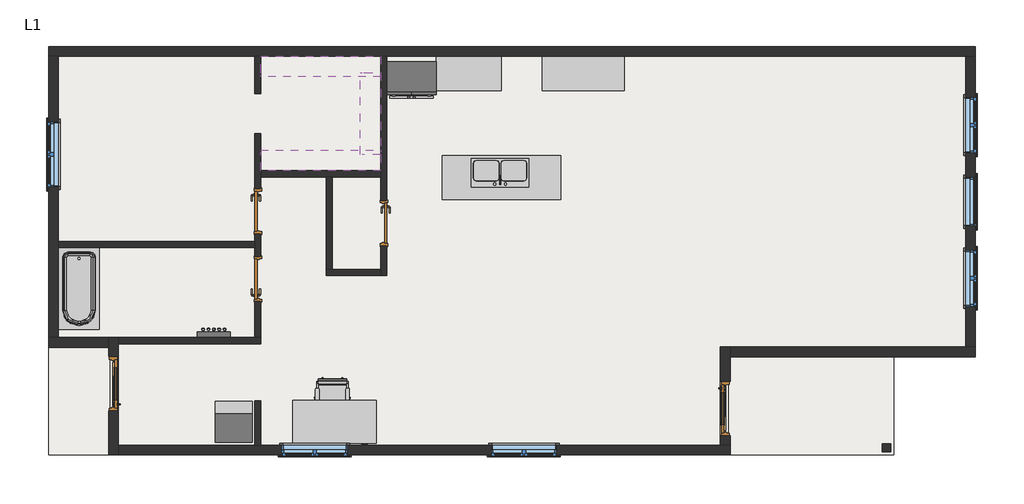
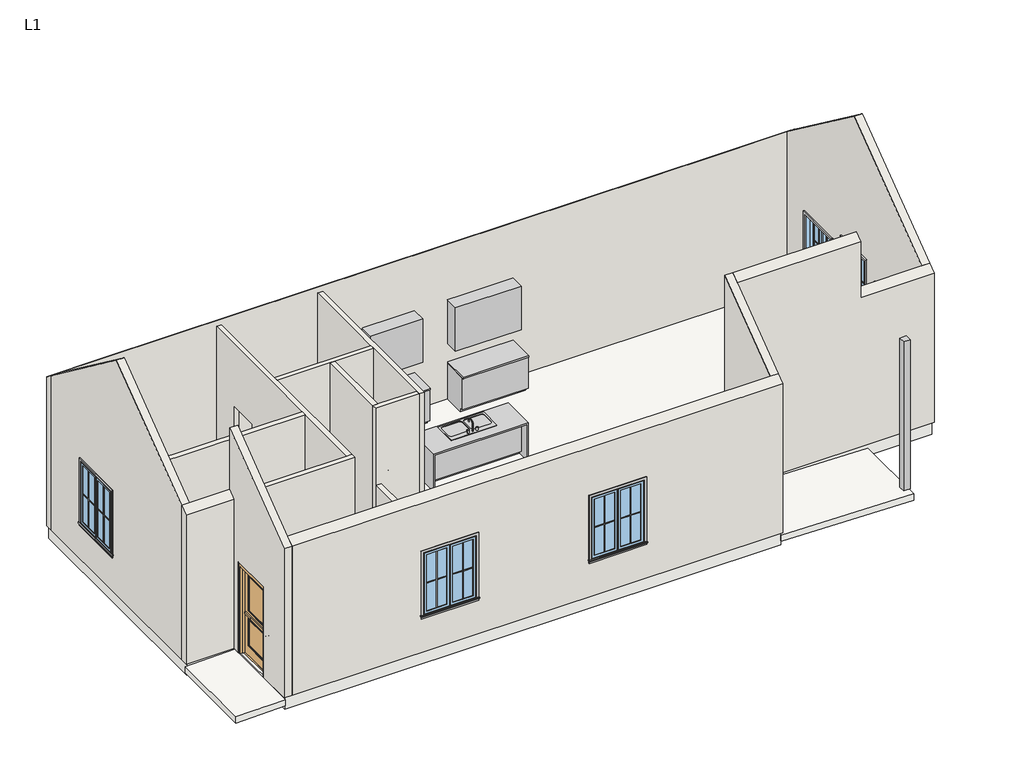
# One storey, incomplete: 28 proxies, 16 walls, 6 windows, 5 doors, 5 furniture elements, 3 slabs, 2 flow terminals, 1 column, 1 light fixture.
"""IFC4 building model written with IfcOpenShell, lengths in millimetres."""

from ifc_helpers import new_model, si_unit, frame, origin, origin_with_axes, place, context, project, spatial, polyline, outline, extrude, faceted_brep, transform, mapped, element, save
from components import proxy_7d457253, proxy_0c6ce0b5, muntin_pattern_2x2_muntin_pattern_2x2_88bf7f41, muntin_pattern_2x2_muntin_pattern_2x2_3dfd0a47, muntin_pattern_2x2_muntin_pattern_2x2_6dad3731, muntin_pattern_2x2_muntin_pattern_2x2_a30a3345, muntin_pattern_2x2_muntin_pattern_2x2_e2e8fc56, proxy_7f263747, trim_window_exterior_flat_with_sill_4930676f, trim_window_exterior_flat_with_sill_92b9b949, trim_window_exterior_flat_with_sill_0b42d71c, trim_window_interior_flat_picture_frame_dd064338, trim_window_interior_flat_picture_frame_3bb882cf, trim_window_interior_flat_picture_frame_20827519, proxy_5ec56aa7, column_9fefe003, door_071b1b46, door_1d3810e4, door_89b66799, flow_terminal_f86be223, tub_rectangular_3d_tub_rectangular_3d_49ae984a, furniture_ee69a057, furniture_a232d697, furniture_6f02d49c, chair_task_arms_chair_task_arms_fa5a08ef, furniture_072f6425, standard_89f9745c, window_5044d55b, window_87d44ff0, window_539d97a3

model = new_model("IFC4")

# Units and contexts
model_context = context("Model", 3, world=origin())
ifc_project = project(units=[si_unit("LENGTHUNIT", "METRE", prefix="MILLI")], contexts=[model_context])

# Site, building, storey
site = spatial("IfcSite", under=ifc_project)
building = spatial("IfcBuilding", under=site)
storey = spatial("IfcBuildingStorey", under=building, Name="L1", Elevation=0.0)

# Proxies
placement = place(None, origin())
proxy_shape = proxy_7d457253(model_context)
element("IfcBuildingElementProxy", 1, Name="Closet Shelf and Pole : 15\" Deep", ObjectType="Closet Shelf and Pole : 15\" Deep", at=placement, inside=storey, context=model_context, shape_type="MappedRepresentation", body=[
    mapped(proxy_shape, transform((-2923.8301933, 3639.126438, 0.0), x_axis=(1.0, 0.0, 0.0), y_axis=(0.0, 1.0, 0.0), z_axis=(0.0, 0.0, 1.0))),
])
element("IfcBuildingElementProxy", 2, Name="Closet Shelf and Pole : 15\" Deep", ObjectType="Closet Shelf and Pole : 15\" Deep", at=placement, inside=storey, context=model_context, shape_type="MappedRepresentation", body=[
    mapped(proxy_shape, transform((-688.6301933, 1505.526438, 0.0), x_axis=(-1.0, 0.0, 0.0), y_axis=(0.0, -1.0, 0.0), z_axis=(0.0, 0.0, 1.0))),
])
proxy_2_shape = proxy_0c6ce0b5(model_context)
element("IfcBuildingElementProxy", 3, Name="Closet Shelf and Pole : 15\" Deep", ObjectType="Closet Shelf and Pole : 15\" Deep", at=placement, inside=storey, context=model_context, shape_type="MappedRepresentation", body=[
    mapped(proxy_2_shape, transform((-688.6301933, 3334.326438, 0.0), x_axis=(0.0, -1.0, 0.0), y_axis=(1.0, 0.0, 0.0), z_axis=(0.0, 0.0, 1.0))),
])
muntin_pattern_2x2_muntin_pattern_2x2_shape = muntin_pattern_2x2_muntin_pattern_2x2_88bf7f41(model_context)
element("IfcBuildingElementProxy", 4, Name="Muntin Pattern_2x2 : Muntin Pattern_2x2", ObjectType="Muntin Pattern_2x2 : Muntin Pattern_2x2", at=placement, inside=storey, context=model_context, shape_type="MappedRepresentation", body=[
    mapped(muntin_pattern_2x2_muntin_pattern_2x2_shape, transform((10382.5948067, 2615.188938, 984.25), x_axis=(0.0, -1.0, 0.0), y_axis=(1.0, 0.0, 0.0), z_axis=(0.0, 0.0, 1.0))),
])
element("IfcBuildingElementProxy", 5, Name="Muntin Pattern_2x2 : Muntin Pattern_2x2", ObjectType="Muntin Pattern_2x2 : Muntin Pattern_2x2", at=placement, inside=storey, context=model_context, shape_type="MappedRepresentation", body=[
    mapped(muntin_pattern_2x2_muntin_pattern_2x2_shape, transform((10382.5948067, -242.311062, 984.25), x_axis=(0.0, -1.0, 0.0), y_axis=(1.0, 0.0, 0.0), z_axis=(0.0, 0.0, 1.0))),
])
muntin_pattern_2x2_muntin_pattern_2x2_2_shape = muntin_pattern_2x2_muntin_pattern_2x2_3dfd0a47(model_context)
element("IfcBuildingElementProxy", 6, Name="Muntin Pattern_2x2 : Muntin Pattern_2x2", ObjectType="Muntin Pattern_2x2 : Muntin Pattern_2x2", at=placement, inside=storey, context=model_context, shape_type="MappedRepresentation", body=[
    mapped(muntin_pattern_2x2_muntin_pattern_2x2_2_shape, transform((10382.5948067, 2097.663938, 984.25), x_axis=(0.0, 1.0, 0.0), y_axis=(-1.0, 0.0, 0.0), z_axis=(0.0, 0.0, 1.0))),
])
element("IfcBuildingElementProxy", 7, Name="Muntin Pattern_2x2 : Muntin Pattern_2x2", ObjectType="Muntin Pattern_2x2 : Muntin Pattern_2x2", at=placement, inside=storey, context=model_context, shape_type="MappedRepresentation", body=[
    mapped(muntin_pattern_2x2_muntin_pattern_2x2_2_shape, transform((10382.5948067, -759.836062, 984.25), x_axis=(0.0, 1.0, 0.0), y_axis=(-1.0, 0.0, 0.0), z_axis=(0.0, 0.0, 1.0))),
])
muntin_pattern_2x2_muntin_pattern_2x2_3_shape = muntin_pattern_2x2_muntin_pattern_2x2_6dad3731(model_context)
element("IfcBuildingElementProxy", 8, Name="Muntin Pattern_2x2 : Muntin Pattern_2x2", ObjectType="Muntin Pattern_2x2 : Muntin Pattern_2x2", at=placement, inside=storey, context=model_context, shape_type="MappedRepresentation", body=[
    mapped(muntin_pattern_2x2_muntin_pattern_2x2_3_shape, transform((-1617.3176933, -3787.198562, 984.25), x_axis=(-1.0, 0.0, 0.0), y_axis=(0.0, -1.0, 0.0), z_axis=(0.0, 0.0, 1.0))),
])
element("IfcBuildingElementProxy", 9, Name="Muntin Pattern_2x2 : Muntin Pattern_2x2", ObjectType="Muntin Pattern_2x2 : Muntin Pattern_2x2", at=placement, inside=storey, context=model_context, shape_type="MappedRepresentation", body=[
    mapped(muntin_pattern_2x2_muntin_pattern_2x2_3_shape, transform((2281.5823067, -3787.198562, 984.25), x_axis=(-1.0, 0.0, 0.0), y_axis=(0.0, -1.0, 0.0), z_axis=(0.0, 0.0, 1.0))),
])
element("IfcBuildingElementProxy", 10, Name="Muntin Pattern_2x2 : Muntin Pattern_2x2", ObjectType="Muntin Pattern_2x2 : Muntin Pattern_2x2", at=placement, inside=storey, context=model_context, shape_type="MappedRepresentation", body=[
    mapped(muntin_pattern_2x2_muntin_pattern_2x2_3_shape, transform((-6870.3551933, 1507.113938, 984.25), x_axis=(0.0, 1.0, 0.0), y_axis=(-1.0, 0.0, 0.0), z_axis=(0.0, 0.0, 1.0))),
])
muntin_pattern_2x2_muntin_pattern_2x2_4_shape = muntin_pattern_2x2_muntin_pattern_2x2_a30a3345(model_context)
element("IfcBuildingElementProxy", 11, Name="Muntin Pattern_2x2 : Muntin Pattern_2x2", ObjectType="Muntin Pattern_2x2 : Muntin Pattern_2x2", at=placement, inside=storey, context=model_context, shape_type="MappedRepresentation", body=[
    mapped(muntin_pattern_2x2_muntin_pattern_2x2_4_shape, transform((-2223.7426933, -3787.198562, 984.25), x_axis=(1.0, 0.0, 0.0), y_axis=(0.0, 1.0, 0.0), z_axis=(0.0, 0.0, 1.0))),
])
element("IfcBuildingElementProxy", 12, Name="Muntin Pattern_2x2 : Muntin Pattern_2x2", ObjectType="Muntin Pattern_2x2 : Muntin Pattern_2x2", at=placement, inside=storey, context=model_context, shape_type="MappedRepresentation", body=[
    mapped(muntin_pattern_2x2_muntin_pattern_2x2_4_shape, transform((1675.1573067, -3787.198562, 984.25), x_axis=(1.0, 0.0, 0.0), y_axis=(0.0, 1.0, 0.0), z_axis=(0.0, 0.0, 1.0))),
])
element("IfcBuildingElementProxy", 13, Name="Muntin Pattern_2x2 : Muntin Pattern_2x2", ObjectType="Muntin Pattern_2x2 : Muntin Pattern_2x2", at=placement, inside=storey, context=model_context, shape_type="MappedRepresentation", body=[
    mapped(muntin_pattern_2x2_muntin_pattern_2x2_4_shape, transform((-6870.3551933, 2113.538938, 984.25), x_axis=(0.0, -1.0, 0.0), y_axis=(1.0, 0.0, 0.0), z_axis=(0.0, 0.0, 1.0))),
])
muntin_pattern_2x2_muntin_pattern_2x2_5_shape = muntin_pattern_2x2_muntin_pattern_2x2_e2e8fc56(model_context)
element("IfcBuildingElementProxy", 14, Name="Muntin Pattern_2x2 : Muntin Pattern_2x2", ObjectType="Muntin Pattern_2x2 : Muntin Pattern_2x2", at=placement, inside=storey, context=model_context, shape_type="MappedRepresentation", body=[
    mapped(muntin_pattern_2x2_muntin_pattern_2x2_5_shape, transform((10382.5948067, 927.676438, 952.5), x_axis=(0.0, 1.0, 0.0), y_axis=(-1.0, 0.0, 0.0), z_axis=(0.0, 0.0, 1.0))),
])
proxy_3_shape = proxy_7f263747(model_context)
element("IfcBuildingElementProxy", 15, Name="Refrigerator-French_Door : 36\"", ObjectType="Refrigerator-French_Door : 36\"", at=placement, inside=storey, context=model_context, shape_type="MappedRepresentation", body=[
    mapped(proxy_3_shape, transform((-117.1301933, 3639.126438, 0.0), x_axis=(1.0, 0.0, 0.0), y_axis=(0.0, 1.0, 0.0), z_axis=(0.0, 0.0, 1.0))),
])
trim_window_exterior_flat_with_sill_shape = trim_window_exterior_flat_with_sill_4930676f(model_context)
element("IfcBuildingElementProxy", 16, Name="Trim-Window-Exterior-Flat : with Sill", ObjectType="Trim-Window-Exterior-Flat : with Sill", at=placement, inside=storey, context=model_context, shape_type="MappedRepresentation", body=[
    mapped(trim_window_exterior_flat_with_sill_shape, transform((10392.1198067, 2356.426438, 2260.6), x_axis=(0.0, 1.0, 0.0), y_axis=(0.0, 0.0, 1.0), z_axis=(1.0, 0.0, 0.0))),
])
element("IfcBuildingElementProxy", 17, Name="Trim-Window-Exterior-Flat : with Sill", ObjectType="Trim-Window-Exterior-Flat : with Sill", at=placement, inside=storey, context=model_context, shape_type="MappedRepresentation", body=[
    mapped(trim_window_exterior_flat_with_sill_shape, transform((10392.1198067, -501.073562, 2260.6), x_axis=(0.0, 1.0, 0.0), y_axis=(0.0, 0.0, 1.0), z_axis=(1.0, 0.0, 0.0))),
])
trim_window_exterior_flat_with_sill_2_shape = trim_window_exterior_flat_with_sill_92b9b949(model_context)
element("IfcBuildingElementProxy", 18, Name="Trim-Window-Exterior-Flat : with Sill", ObjectType="Trim-Window-Exterior-Flat : with Sill", at=placement, inside=storey, context=model_context, shape_type="MappedRepresentation", body=[
    mapped(trim_window_exterior_flat_with_sill_2_shape, transform((-1920.5301933, -3796.723562, 2438.4), x_axis=(1.0, 0.0, 0.0), y_axis=(0.0, 0.0, 1.0), z_axis=(0.0, -1.0, 0.0))),
])
element("IfcBuildingElementProxy", 19, Name="Trim-Window-Exterior-Flat : with Sill", ObjectType="Trim-Window-Exterior-Flat : with Sill", at=placement, inside=storey, context=model_context, shape_type="MappedRepresentation", body=[
    mapped(trim_window_exterior_flat_with_sill_2_shape, transform((1978.3698067, -3796.723562, 2438.4), x_axis=(1.0, 0.0, 0.0), y_axis=(0.0, 0.0, 1.0), z_axis=(0.0, -1.0, 0.0))),
])
element("IfcBuildingElementProxy", 20, Name="Trim-Window-Exterior-Flat : with Sill", ObjectType="Trim-Window-Exterior-Flat : with Sill", at=placement, inside=storey, context=model_context, shape_type="MappedRepresentation", body=[
    mapped(trim_window_exterior_flat_with_sill_2_shape, transform((-6879.8801933, 1810.326438, 2438.4), x_axis=(0.0, -1.0, 0.0), y_axis=(0.0, 0.0, 1.0), z_axis=(-1.0, 0.0, 0.0))),
])
trim_window_exterior_flat_with_sill_3_shape = trim_window_exterior_flat_with_sill_0b42d71c(model_context)
element("IfcBuildingElementProxy", 21, Name="Trim-Window-Exterior-Flat : with Sill", ObjectType="Trim-Window-Exterior-Flat : with Sill", at=placement, inside=storey, context=model_context, shape_type="MappedRepresentation", body=[
    mapped(trim_window_exterior_flat_with_sill_3_shape, transform((10392.1198067, 927.676438, 2565.4), x_axis=(0.0, 1.0, 0.0), y_axis=(0.0, 0.0, 1.0), z_axis=(1.0, 0.0, 0.0))),
])
trim_window_interior_flat_picture_frame_shape = trim_window_interior_flat_picture_frame_dd064338(model_context)
element("IfcBuildingElementProxy", 22, Name="Trim-Window-Interior-Flat : Picture Frame", ObjectType="Trim-Window-Interior-Flat : Picture Frame", at=placement, inside=storey, context=model_context, shape_type="MappedRepresentation", body=[
    mapped(trim_window_interior_flat_picture_frame_shape, transform((10207.9698067, 2356.426438, 2260.6), x_axis=(0.0, -1.0, 0.0), y_axis=(0.0, 0.0, 1.0), z_axis=(-1.0, 0.0, 0.0))),
])
element("IfcBuildingElementProxy", 23, Name="Trim-Window-Interior-Flat : Picture Frame", ObjectType="Trim-Window-Interior-Flat : Picture Frame", at=placement, inside=storey, context=model_context, shape_type="MappedRepresentation", body=[
    mapped(trim_window_interior_flat_picture_frame_shape, transform((10207.9698067, -501.073562, 2260.6), x_axis=(0.0, -1.0, 0.0), y_axis=(0.0, 0.0, 1.0), z_axis=(-1.0, 0.0, 0.0))),
])
trim_window_interior_flat_picture_frame_2_shape = trim_window_interior_flat_picture_frame_3bb882cf(model_context)
element("IfcBuildingElementProxy", 24, Name="Trim-Window-Interior-Flat : Picture Frame", ObjectType="Trim-Window-Interior-Flat : Picture Frame", at=placement, inside=storey, context=model_context, shape_type="MappedRepresentation", body=[
    mapped(trim_window_interior_flat_picture_frame_2_shape, transform((-1920.5301933, -3612.573562, 2438.4), x_axis=(-1.0, 0.0, 0.0), y_axis=(0.0, 0.0, 1.0), z_axis=(0.0, 1.0, 0.0))),
])
element("IfcBuildingElementProxy", 25, Name="Trim-Window-Interior-Flat : Picture Frame", ObjectType="Trim-Window-Interior-Flat : Picture Frame", at=placement, inside=storey, context=model_context, shape_type="MappedRepresentation", body=[
    mapped(trim_window_interior_flat_picture_frame_2_shape, transform((1978.3698067, -3612.573562, 2438.4), x_axis=(-1.0, 0.0, 0.0), y_axis=(0.0, 0.0, 1.0), z_axis=(0.0, 1.0, 0.0))),
])
element("IfcBuildingElementProxy", 26, Name="Trim-Window-Interior-Flat : Picture Frame", ObjectType="Trim-Window-Interior-Flat : Picture Frame", at=placement, inside=storey, context=model_context, shape_type="MappedRepresentation", body=[
    mapped(trim_window_interior_flat_picture_frame_2_shape, transform((-6695.7301933, 1810.326438, 2438.4), x_axis=(0.0, 1.0, 0.0), y_axis=(0.0, 0.0, 1.0), z_axis=(1.0, 0.0, 0.0))),
])
trim_window_interior_flat_picture_frame_3_shape = trim_window_interior_flat_picture_frame_20827519(model_context)
element("IfcBuildingElementProxy", 27, Name="Trim-Window-Interior-Flat : Picture Frame", ObjectType="Trim-Window-Interior-Flat : Picture Frame", at=placement, inside=storey, context=model_context, shape_type="MappedRepresentation", body=[
    mapped(trim_window_interior_flat_picture_frame_3_shape, transform((10207.9698067, 927.676438, 2565.4), x_axis=(0.0, -1.0, 0.0), y_axis=(0.0, 0.0, 1.0), z_axis=(-1.0, 0.0, 0.0))),
])
proxy_4_shape = proxy_5ec56aa7(model_context)
element("IfcBuildingElementProxy", 28, Name="Washer-Dryer-Stack : 27\" x 30\"", ObjectType="Washer-Dryer-Stack : 27\" x 30\"", at=placement, inside=storey, context=model_context, shape_type="MappedRepresentation", body=[
    mapped(proxy_4_shape, transform((-3431.8301933, -3180.773562, 0.0), x_axis=(-1.0, 0.0, 0.0), y_axis=(0.0, -1.0, 0.0), z_axis=(0.0, 0.0, 1.0))),
])

# Column
column_shape = column_9fefe003(model_context)
element("IfcColumn", 29, ObjectType="Rectangular Column : 6\" x 6\"", at=placement, inside=storey, context=model_context, shape_type="MappedRepresentation", body=[
    mapped(column_shape, transform((8734.7698067, -3663.373562, 0.0), x_axis=(1.0, 0.0, 0.0), y_axis=(0.0, 1.0, 0.0), z_axis=(0.0, 0.0, 1.0))),
])

# Doors
door_shape = door_071b1b46(model_context)
element("IfcDoor", 30, ObjectType="Door-Exterior-Single-Two_Lite : 36\" x 84\"", at=placement, inside=storey, context=model_context, shape_type="MappedRepresentation", body=[
    mapped(door_shape, transform((-5676.5551933, -2469.573562, 0.0), x_axis=(0.0, 1.0, 0.0), y_axis=(-1.0, 0.0, 0.0), z_axis=(0.0, 0.0, 1.0))),
])
element("IfcDoor", 31, ObjectType="Door-Exterior-Single-Two_Lite : 36\" x 84\"", at=placement, inside=storey, context=model_context, shape_type="MappedRepresentation", body=[
    mapped(door_shape, transform((5734.3948067, -2933.123562, 0.0), x_axis=(0.0, -1.0, 0.0), y_axis=(1.0, 0.0, 0.0), z_axis=(0.0, 0.0, 1.0))),
])
door_2_shape = door_1d3810e4(model_context)
element("IfcDoor", 32, ObjectType="Door-Passage-Single-Flush : 30\" x 84\"", at=placement, inside=storey, context=model_context, shape_type="MappedRepresentation", body=[
    mapped(door_2_shape, transform((-2974.6301933, -513.773562, 0.0), x_axis=(0.0, 1.0, 0.0), y_axis=(-1.0, 0.0, 0.0), z_axis=(0.0, 0.0, 1.0))),
])
element("IfcDoor", 33, ObjectType="Door-Passage-Single-Flush : 30\" x 84\"", at=placement, inside=storey, context=model_context, shape_type="MappedRepresentation", body=[
    mapped(door_2_shape, transform((-637.8301933, 527.626438, 0.0), x_axis=(0.0, -1.0, 0.0), y_axis=(1.0, 0.0, 0.0), z_axis=(0.0, 0.0, 1.0))),
])
door_3_shape = door_89b66799(model_context)
element("IfcDoor", 34, ObjectType="Door-Passage-Single-Flush : 30\" x 84\"", at=placement, inside=storey, context=model_context, shape_type="MappedRepresentation", body=[
    mapped(door_3_shape, transform((-2974.6301933, 749.876438, 0.0), x_axis=(0.0, -1.0, 0.0), y_axis=(1.0, 0.0, 0.0), z_axis=(0.0, 0.0, 1.0))),
])

# Flow terminals
flow_terminal_shape = flow_terminal_f86be223(model_context)
element("IfcFlowTerminal", 35, ObjectType="Sink - Kitchen - Double : 42\"x21\" - Private", at=placement, inside=storey, context=model_context, shape_type="MappedRepresentation", body=[
    mapped(flow_terminal_shape, transform((1533.8698067, 1200.726438, 914.4), x_axis=(-1.0, 0.0, 0.0), y_axis=(0.0, -1.0, 0.0), z_axis=(0.0, 0.0, 1.0))),
])
tub_rectangular_3d_tub_rectangular_3d_shape = tub_rectangular_3d_tub_rectangular_3d_49ae984a(model_context)
element("IfcFlowTerminal", 36, ObjectType="Tub-Rectangular-3D : Tub-Rectangular-3D", at=placement, inside=storey, context=model_context, shape_type="MappedRepresentation", body=[
    mapped(tub_rectangular_3d_tub_rectangular_3d_shape, transform((-6787.8051933, -1040.1765307, 0.0), x_axis=(0.0, -1.0, 0.0), y_axis=(1.0, 0.0, 0.0), z_axis=(0.0, 0.0, 1.0))),
])

# Furniture
furniture_shape = furniture_ee69a057(model_context)
element("IfcFurniture", 37, ObjectType="Casework Schematic - Base and Upper : Casework Schematic", at=placement, inside=storey, context=model_context, shape_type="MappedRepresentation", body=[
    mapped(furniture_shape, transform((340.0698067, 3639.126438, 0.0), x_axis=(1.0, 0.0, 0.0), y_axis=(0.0, 1.0, 0.0), z_axis=(0.0, 0.0, 1.0))),
])
furniture_2_shape = furniture_a232d697(model_context)
element("IfcFurniture", 38, ObjectType="Casework Schematic - Base and Upper : Casework Schematic", at=placement, inside=storey, context=model_context, shape_type="MappedRepresentation", body=[
    mapped(furniture_2_shape, transform((2321.2698067, 3639.126438, 0.0), x_axis=(1.0, 0.0, 0.0), y_axis=(0.0, 1.0, 0.0), z_axis=(0.0, 0.0, 1.0))),
])
furniture_3_shape = furniture_6f02d49c(model_context)
element("IfcFurniture", 39, ObjectType="Casework Schematic - Base and Upper : Casework Schematic", at=placement, inside=storey, context=model_context, shape_type="MappedRepresentation", body=[
    mapped(furniture_3_shape, transform((492.4698067, 1784.926438, 0.0), x_axis=(1.0, 0.0, 0.0), y_axis=(0.0, 1.0, 0.0), z_axis=(0.0, 0.0, 1.0))),
])
chair_task_arms_chair_task_arms_shape = chair_task_arms_chair_task_arms_fa5a08ef(model_context)
element("IfcFurniture", 40, ObjectType="Chair-Task Arms : Chair-Task Arms", at=placement, inside=storey, context=model_context, shape_type="MappedRepresentation", body=[
    mapped(chair_task_arms_chair_task_arms_shape, transform((-1449.3393736, -2623.5208346, 0.0), x_axis=(-1.0, 0.0, 0.0), y_axis=(0.0, -1.0, 0.0), z_axis=(0.0, 0.0, 1.0))),
])
furniture_4_shape = furniture_072f6425(model_context)
element("IfcFurniture", 41, ObjectType="Desk : 60\" x 30\"", at=placement, inside=storey, context=model_context, shape_type="MappedRepresentation", body=[
    mapped(furniture_4_shape, transform((-790.2301933, -2799.773562, 0.0), x_axis=(-1.0, 0.0, 0.0), y_axis=(0.0, -1.0, 0.0), z_axis=(0.0, 0.0, 1.0))),
])

# Light fixture
standard_shape = standard_89f9745c(model_context)
element("IfcLightFixture", 42, ObjectType="Sconce Lamp - Cosmetic - LED : Standard", at=placement, inside=storey, context=model_context, shape_type="MappedRepresentation", body=[
    mapped(standard_shape, transform((-3800.1301933, -1605.973562, 1219.2), x_axis=(-1.0, 0.0, 0.0), y_axis=(0.0, 0.0, 1.0), z_axis=(0.0, 1.0, 0.0))),
])

# Slabs
element("IfcSlab", 43, ObjectType="Concrete 6\"", at=placement, inside=storey, context=model_context, shape_type="SweptSolid", body=[
    extrude(outline(polyline([(-203.2330693, 5788.3698067), (-267.3945277, 8868.1198067), (-114.9614583, 8868.1198067), (-50.8, 5788.3698067), (-203.2330693, 5788.3698067)])), frame((0.0, -3796.723562, 0.0), z_axis=(0.0, 1.0, 0.0), x_axis=(0.0, 0.0, 1.0)), (0.0, 0.0, 1.0), 1860.55),
])
element("IfcSlab", 44, ObjectType="Concrete 6\"", at=placement, inside=storey, context=model_context, shape_type="SweptSolid", body=[
    extrude(outline(polyline([(-227.177861, -6879.8801933), (-203.2330693, -5730.5301933), (-50.8, -5730.5301933), (-74.7447917, -6879.8801933), (-227.177861, -6879.8801933)])), frame((0.0, -3796.723562, 0.0), z_axis=(0.0, 1.0, 0.0), x_axis=(0.0, 0.0, 1.0)), (0.0, 0.0, 1.0), 2038.35),
])
element("IfcSlab", 45, ObjectType="Generic - 12\"", at=placement, inside=storey, context=model_context, shape_type="SweptSolid", body=[
    extrude(outline(polyline([(10360.3698067, 3791.526438), (10360.3698067, -1936.173562), (5788.3698067, -1936.173562), (5788.3698067, -3764.973562), (-5730.5301933, -3764.973562), (-5730.5301933, -1758.373562), (-6848.1301933, -1758.373562), (-6848.1301933, 3791.526438), (10360.3698067, 3791.526438)])), frame((0.0, 0.0, -304.8), z_axis=(0.0, 0.0, 1.0), x_axis=(1.0, 0.0, 0.0)), (0.0, 0.0, 1.0), 304.8),
])

# Walls
element("IfcWall", 46, ObjectType="Exterior - Wood Siding on Wood Stud", at=placement, inside=storey, context=model_context, shape_type="Brep", body=[
    faceted_brep([(-6879.8801933, 3639.126438, 0.0), (-6695.7301933, 3639.126438, 0.0), (-3038.1301933, 3639.126438, 0.0), (-2923.8301933, 3639.126438, 0.0), (-688.6301933, 3639.126438, 0.0), (-574.3301933, 3639.126438, 0.0), (10207.9698067, 3639.126438, 0.0), (10392.1198067, 3639.126438, 0.0), (10392.1198067, 3639.126438, 3795.7125), (10207.9698067, 3639.126438, 3795.7125), (8683.9698067, 3639.126438, 3795.7125), (-5670.2051933, 3639.126438, 3795.7125), (-6695.7301933, 3639.126438, 3795.7125), (-6879.8801933, 3639.126438, 3795.7125), (-6879.8801933, 3823.276438, 0.0), (-6879.8801933, 3823.276438, 3657.6), (-5670.2051933, 3823.276438, 3657.6), (8683.9698067, 3823.276438, 3657.6), (10392.1198067, 3823.276438, 3657.6), (10392.1198067, 3823.276438, 0.0)], [[[0, 1, 2, 3, 4, 5, 6, 7, 8, 9, 10, 11, 12, 13]], [[14, 15, 16, 17, 18, 19]], [[7, 6, 5, 4, 3, 2, 1, 0, 14, 19]], [[0, 13, 15, 14]], [[8, 7, 19, 18]], [[8, 18, 17, 10, 9]], [[11, 10, 17, 16]], [[11, 16, 15, 13, 12]]]),
])
element("IfcWall", 47, ObjectType="Exterior - Wood Siding on Wood Stud", at=placement, inside=storey, context=model_context, shape_type="Brep", body=[
    faceted_brep([(-5578.1301933, -3796.723562, 3657.6), (-5578.1301933, -3796.723562, 0.0), (-5578.1301933, -3612.573562, 0.0), (-5578.1301933, -2977.573562, 0.0), (-5578.1301933, -2977.573562, 2235.2), (-5578.1301933, -1961.573562, 2235.2), (-5578.1301933, -1961.573562, 0.0), (-5578.1301933, -1720.273562, 0.0), (-5578.1301933, -1605.973562, 0.0), (-5578.1301933, -1605.973562, 3657.6), (-5578.1301933, -1605.973562, 5300.6625), (-5578.1301933, -3612.573562, 3795.7125), (-5762.2801933, -3796.723562, 0.0), (-5762.2801933, -3796.723562, 3657.6), (-5762.2801933, -1605.973562, 5300.6625), (-5762.2801933, -1605.973562, 3795.7125), (-5762.2801933, -1605.973562, 0.0), (-5762.2801933, -1790.123562, 0.0), (-5762.2801933, -1961.573562, 0.0), (-5762.2801933, -1961.573562, 2235.2), (-5762.2801933, -2977.573562, 2235.2), (-5762.2801933, -2977.573562, 0.0)], [[[0, 1, 2, 3, 4, 5, 6, 7, 8, 9, 10, 11]], [[12, 13, 14, 15, 16, 17, 18, 19, 20, 21]], [[1, 12, 21, 3, 2]], [[16, 8, 7, 6, 18, 17]], [[1, 0, 13, 12]], [[5, 19, 18, 6]], [[19, 5, 4, 20]], [[20, 4, 3, 21]], [[0, 11, 10, 14, 13]], [[8, 16, 15, 14, 10, 9]]]),
])
element("IfcWall", 48, ObjectType="Exterior - Wood Siding on Wood Stud", at=placement, inside=storey, context=model_context, shape_type="Brep", body=[
    faceted_brep([(5820.1198067, -3612.573562, 0.0), (5635.9698067, -3612.573562, 0.0), (-2923.8301933, -3612.573562, 0.0), (-3038.1301933, -3612.573562, 0.0), (-5578.1301933, -3612.573562, 0.0), (-5578.1301933, -3612.573562, 3795.7125), (5635.9698067, -3612.573562, 3795.7125), (5820.1198067, -3612.573562, 3795.7125), (-2530.1301933, -3612.573562, 2438.4), (-2530.1301933, -3612.573562, 914.4), (-1310.9301933, -3612.573562, 914.4), (-1310.9301933, -3612.573562, 2438.4), (1368.7698067, -3612.573562, 2438.4), (1368.7698067, -3612.573562, 914.4), (2587.9698067, -3612.573562, 914.4), (2587.9698067, -3612.573562, 2438.4), (5820.1198067, -3796.723562, 0.0), (5820.1198067, -3796.723562, 3657.6), (-5578.1301933, -3796.723562, 3657.6), (-5578.1301933, -3796.723562, 0.0), (-2530.1301933, -3796.723562, 2438.4), (-1310.9301933, -3796.723562, 2438.4), (-1310.9301933, -3796.723562, 914.4), (-2530.1301933, -3796.723562, 914.4), (1368.7698067, -3796.723562, 2438.4), (2587.9698067, -3796.723562, 2438.4), (2587.9698067, -3796.723562, 914.4), (1368.7698067, -3796.723562, 914.4)], [[[0, 1, 2, 3, 4, 5, 6, 7], [8, 9, 10, 11], [12, 13, 14, 15]], [[16, 17, 18, 19], [20, 21, 22, 23], [24, 25, 26, 27]], [[4, 3, 2, 1, 0, 16, 19]], [[0, 7, 17, 16]], [[5, 4, 19, 18]], [[9, 8, 20, 23]], [[10, 9, 23, 22]], [[11, 10, 22, 21]], [[8, 11, 21, 20]], [[13, 12, 24, 27]], [[14, 13, 27, 26]], [[15, 14, 26, 25]], [[12, 15, 25, 24]], [[7, 6, 5, 18, 17]]]),
])
element("IfcWall", 49, ObjectType="Exterior - Wood Siding on Wood Stud", at=placement, inside=storey, context=model_context, shape_type="Brep", body=[
    faceted_brep([(5635.9698067, -3612.573562, 0.0), (5635.9698067, -3612.573562, 3795.7125), (5635.9698067, -1783.773562, 5167.3125), (5635.9698067, -1783.773562, 0.0), (5635.9698067, -2425.123562, 0.0), (5635.9698067, -2425.123562, 2235.2), (5635.9698067, -3441.123562, 2235.2), (5635.9698067, -3441.123562, 0.0), (5820.1198067, -3612.573562, 3795.7125), (5820.1198067, -3612.573562, 0.0), (5820.1198067, -3441.123562, 0.0), (5820.1198067, -3441.123562, 2235.2), (5820.1198067, -2425.123562, 2235.2), (5820.1198067, -2425.123562, 0.0), (5820.1198067, -1967.923562, 0.0), (5820.1198067, -1783.773562, 0.0), (5820.1198067, -1783.773562, 5167.3125), (5820.1198067, -1967.923562, 5029.2)], [[[0, 1, 2, 3, 4, 5, 6, 7]], [[8, 9, 10, 11, 12, 13, 14, 15, 16, 17]], [[9, 0, 7, 10]], [[3, 15, 14, 13, 4]], [[1, 0, 9, 8]], [[3, 2, 16, 15]], [[6, 11, 10, 7]], [[11, 6, 5, 12]], [[12, 5, 4, 13]], [[2, 1, 8, 17, 16]]]),
])
element("IfcWall", 50, ObjectType="Exterior - Wood Siding on Wood Stud", at=placement, inside=storey, context=model_context, shape_type="Brep", body=[
    faceted_brep([(-5762.2801933, -1605.973562, 3795.7125), (-5762.2801933, -1605.973562, 0.0), (-6695.7301933, -1605.973562, 0.0), (-6879.8801933, -1605.973562, 0.0), (-6879.8801933, -1605.973562, 3795.7125), (-6695.7301933, -1605.973562, 3795.7125), (-5762.2801933, -1790.123562, 0.0), (-5762.2801933, -1790.123562, 3657.6), (-6879.8801933, -1790.123562, 3657.6), (-6879.8801933, -1790.123562, 0.0)], [[[0, 1, 2, 3, 4, 5]], [[6, 7, 8, 9]], [[3, 2, 1, 6, 9]], [[4, 3, 9, 8]], [[0, 7, 6, 1]], [[0, 5, 4, 8, 7]]]),
])
element("IfcWall", 51, ObjectType="Exterior - Wood Siding on Wood Stud", at=placement, inside=storey, context=model_context, shape_type="Brep", body=[
    faceted_brep([(-6695.7301933, -1605.973562, 0.0), (-6695.7301933, 70.426438, 0.0), (-6695.7301933, 184.726438, 0.0), (-6695.7301933, 3639.126438, 0.0), (-6695.7301933, 3639.126438, 3795.7125), (-6695.7301933, 1016.576438, 5762.625), (-6695.7301933, -1605.973562, 3795.7125), (-6695.7301933, 2419.926438, 2438.4), (-6695.7301933, 2419.926438, 914.4), (-6695.7301933, 1200.726438, 914.4), (-6695.7301933, 1200.726438, 2438.4), (-6879.8801933, -1605.973562, 0.0), (-6879.8801933, -1605.973562, 3795.7125), (-6879.8801933, 1016.576438, 5762.625), (-6879.8801933, 3639.126438, 3795.7125), (-6879.8801933, 3639.126438, 0.0), (-6879.8801933, 2419.926438, 2438.4), (-6879.8801933, 1200.726438, 2438.4), (-6879.8801933, 1200.726438, 914.4), (-6879.8801933, 2419.926438, 914.4)], [[[0, 1, 2, 3, 4, 5, 6], [7, 8, 9, 10]], [[11, 12, 13, 14, 15], [16, 17, 18, 19]], [[3, 2, 1, 0, 11, 15]], [[0, 6, 12, 11]], [[4, 3, 15, 14]], [[8, 7, 16, 19]], [[9, 8, 19, 18]], [[10, 9, 18, 17]], [[7, 10, 17, 16]], [[6, 5, 13, 12]], [[5, 4, 14, 13]]]),
])
element("IfcWall", 52, ObjectType="Exterior - Wood Siding on Wood Stud", at=placement, inside=storey, context=model_context, shape_type="Brep", body=[
    faceted_brep([(5820.1198067, -1967.923562, 0.0), (10392.1198067, -1967.923562, 0.0), (10392.1198067, -1967.923562, 3657.6), (8683.9698067, -1967.923562, 3657.6), (8683.9698067, -1967.923562, 5029.2), (5820.1198067, -1967.923562, 5029.2), (5820.1198067, -1783.773562, 0.0), (5820.1198067, -1783.773562, 5167.3125), (8683.9698067, -1783.773562, 5167.3125), (8683.9698067, -1783.773562, 3795.7125), (10207.9698067, -1783.773562, 3795.7125), (10392.1198067, -1783.773562, 3795.7125), (10392.1198067, -1783.773562, 0.0), (10207.9698067, -1783.773562, 0.0)], [[[0, 1, 2, 3, 4, 5]], [[6, 7, 8, 9, 10, 11, 12, 13]], [[1, 0, 6, 13, 12]], [[2, 1, 12, 11]], [[0, 5, 7, 6]], [[5, 4, 8, 7]], [[8, 4, 3, 9]], [[3, 2, 11, 10, 9]]]),
])
element("IfcWall", 53, ObjectType="Exterior - Wood Siding on Wood Stud", at=placement, inside=storey, context=model_context, shape_type="SweptSolid", body=[
    extrude(outline(polyline([(-1783.773562, 0.0), (-1783.773562, 3795.7125), (927.676438, 5829.3), (3639.126438, 3795.7125), (3639.126438, 0.0), (-1783.773562, 0.0)]), holes=[polyline([(1835.726438, 2260.6), (1835.726438, 914.4), (2877.126438, 914.4), (2877.126438, 2260.6), (1835.726438, 2260.6)]), polyline([(-1021.773562, 2260.6), (-1021.773562, 914.4), (19.626438, 914.4), (19.626438, 2260.6), (-1021.773562, 2260.6)]), polyline([(470.476438, 2565.4), (470.476438, 914.4), (1384.876438, 914.4), (1384.876438, 2565.4), (470.476438, 2565.4)])]), frame((10207.9698067, 0.0, 0.0), z_axis=(1.0, 0.0, 0.0), x_axis=(0.0, 1.0, 0.0)), (0.0, 0.0, 1.0), 184.15),
])
element("IfcWall", 54, ObjectType="Interior - 4 1/2\" Partition", at=placement, inside=storey, context=model_context, shape_type="Brep", body=[
    faceted_brep([(-5578.1301933, -1720.273562, 0.0), (-2923.8301933, -1720.273562, 0.0), (-2923.8301933, -1720.273562, 3657.6), (-5578.1301933, -1720.273562, 3657.6), (-5578.1301933, -1605.973562, 0.0), (-5578.1301933, -1605.973562, 3657.6), (-3038.1301933, -1605.973562, 3657.6), (-2923.8301933, -1605.973562, 3657.6), (-2923.8301933, -1605.973562, 0.0), (-3038.1301933, -1605.973562, 0.0)], [[[0, 1, 2, 3]], [[4, 5, 6, 7, 8, 9]], [[1, 0, 4, 9, 8]], [[3, 2, 7, 6, 5]], [[0, 3, 5, 4]], [[2, 1, 8, 7]]]),
])
element("IfcWall", 55, ObjectType="Interior - 4 1/2\" Partition", at=placement, inside=storey, context=model_context, shape_type="Brep", body=[
    faceted_brep([(-2923.8301933, 3639.126438, 3657.6), (-2923.8301933, 1505.526438, 3657.6), (-2923.8301933, 1391.226438, 3657.6), (-2923.8301933, -1605.973562, 3657.6), (-2923.8301933, -1605.973562, 0.0), (-2923.8301933, -926.523562, 0.0), (-2923.8301933, -926.523562, 2165.35), (-2923.8301933, -101.023562, 2165.35), (-2923.8301933, -101.023562, 0.0), (-2923.8301933, 337.126438, 0.0), (-2923.8301933, 337.126438, 2165.35), (-2923.8301933, 1162.626438, 2165.35), (-2923.8301933, 1162.626438, 0.0), (-2923.8301933, 1391.226438, 0.0), (-2923.8301933, 1505.526438, 0.0), (-2923.8301933, 2197.676438, 0.0), (-2923.8301933, 2197.676438, 2127.25), (-2923.8301933, 2946.976438, 2127.25), (-2923.8301933, 2946.976438, 0.0), (-2923.8301933, 3639.126438, 0.0), (-3038.1301933, -1605.973562, 3657.6), (-3038.1301933, 70.426438, 3657.6), (-3038.1301933, 184.726438, 3657.6), (-3038.1301933, 3639.126438, 3657.6), (-3038.1301933, 3639.126438, 0.0), (-3038.1301933, 2946.976438, 0.0), (-3038.1301933, 2946.976438, 2127.25), (-3038.1301933, 2197.676438, 2127.25), (-3038.1301933, 2197.676438, 0.0), (-3038.1301933, 1162.626438, 0.0), (-3038.1301933, 1162.626438, 2165.35), (-3038.1301933, 337.126438, 2165.35), (-3038.1301933, 337.126438, 0.0), (-3038.1301933, 184.726438, 0.0), (-3038.1301933, 70.426438, 0.0), (-3038.1301933, -101.023562, 0.0), (-3038.1301933, -101.023562, 2165.35), (-3038.1301933, -926.523562, 2165.35), (-3038.1301933, -926.523562, 0.0), (-3038.1301933, -1605.973562, 0.0)], [[[0, 1, 2, 3, 4, 5, 6, 7, 8, 9, 10, 11, 12, 13, 14, 15, 16, 17, 18, 19]], [[20, 21, 22, 23, 24, 25, 26, 27, 28, 29, 30, 31, 32, 33, 34, 35, 36, 37, 38, 39]], [[4, 39, 38, 5]], [[24, 19, 18, 25]], [[8, 35, 34, 33, 32, 9]], [[12, 29, 28, 15, 14, 13]], [[3, 2, 1, 0, 23, 22, 21, 20]], [[4, 3, 20, 39]], [[0, 19, 24, 23]], [[7, 36, 35, 8]], [[36, 7, 6, 37]], [[37, 6, 5, 38]], [[31, 10, 9, 32]], [[10, 31, 30, 11]], [[11, 30, 29, 12]], [[27, 16, 15, 28]], [[16, 27, 26, 17]], [[17, 26, 25, 18]]]),
])
element("IfcWall", 56, ObjectType="Interior - 4 1/2\" Partition", at=placement, inside=storey, context=model_context, shape_type="SweptSolid", body=[
    extrude(outline(polyline([(-3038.1301933, 70.426438), (-6695.7301933, 70.426438), (-6695.7301933, 184.726438), (-3038.1301933, 184.726438), (-3038.1301933, 70.426438)])), origin_with_axes(), (0.0, 0.0, 1.0), 3657.6),
])
element("IfcWall", 57, ObjectType="Interior - 4 1/2\" Partition", at=placement, inside=storey, context=model_context, shape_type="Brep", body=[
    faceted_brep([(-2923.8301933, 1391.226438, 0.0), (-1704.6301933, 1391.226438, 0.0), (-1590.3301933, 1391.226438, 0.0), (-688.6301933, 1391.226438, 0.0), (-688.6301933, 1391.226438, 3657.6), (-1590.3301933, 1391.226438, 3657.6), (-1704.6301933, 1391.226438, 3657.6), (-2923.8301933, 1391.226438, 3657.6), (-2923.8301933, 1505.526438, 0.0), (-2923.8301933, 1505.526438, 3657.6), (-688.6301933, 1505.526438, 3657.6), (-688.6301933, 1505.526438, 0.0)], [[[0, 1, 2, 3, 4, 5, 6, 7]], [[8, 9, 10, 11]], [[3, 2, 1, 0, 8, 11]], [[7, 6, 5, 4, 10, 9]], [[0, 7, 9, 8]], [[4, 3, 11, 10]]]),
])
element("IfcWall", 58, ObjectType="Interior - 4 1/2\" Partition", at=placement, inside=storey, context=model_context, shape_type="Brep", body=[
    faceted_brep([(-688.6301933, -450.273562, 3657.6), (-688.6301933, -335.973562, 3657.6), (-688.6301933, 1391.226438, 3657.6), (-688.6301933, 1505.526438, 3657.6), (-688.6301933, 3639.126438, 3657.6), (-688.6301933, 3639.126438, 0.0), (-688.6301933, 1505.526438, 0.0), (-688.6301933, 1391.226438, 0.0), (-688.6301933, 940.376438, 0.0), (-688.6301933, 940.376438, 2165.35), (-688.6301933, 114.876438, 2165.35), (-688.6301933, 114.876438, 0.0), (-688.6301933, -335.973562, 0.0), (-688.6301933, -450.273562, 0.0), (-574.3301933, 3639.126438, 3657.6), (-574.3301933, -450.273562, 3657.6), (-574.3301933, -450.273562, 0.0), (-574.3301933, 114.876438, 0.0), (-574.3301933, 114.876438, 2165.35), (-574.3301933, 940.376438, 2165.35), (-574.3301933, 940.376438, 0.0), (-574.3301933, 3639.126438, 0.0)], [[[0, 1, 2, 3, 4, 5, 6, 7, 8, 9, 10, 11, 12, 13]], [[14, 15, 16, 17, 18, 19, 20, 21]], [[5, 21, 20, 8, 7, 6]], [[16, 13, 12, 11, 17]], [[4, 3, 2, 1, 0, 15, 14]], [[5, 4, 14, 21]], [[0, 13, 16, 15]], [[10, 18, 17, 11]], [[18, 10, 9, 19]], [[19, 9, 8, 20]]]),
])
element("IfcWall", 59, ObjectType="Interior - 4 1/2\" Partition", at=placement, inside=storey, context=model_context, shape_type="Brep", body=[
    faceted_brep([(-688.6301933, -335.973562, 0.0), (-1590.3301933, -335.973562, 0.0), (-1704.6301933, -335.973562, 0.0), (-1704.6301933, -335.973562, 3657.6), (-1590.3301933, -335.973562, 3657.6), (-688.6301933, -335.973562, 3657.6), (-688.6301933, -450.273562, 0.0), (-688.6301933, -450.273562, 3657.6), (-1704.6301933, -450.273562, 3657.6), (-1704.6301933, -450.273562, 0.0)], [[[0, 1, 2, 3, 4, 5]], [[6, 7, 8, 9]], [[2, 1, 0, 6, 9]], [[5, 4, 3, 8, 7]], [[0, 5, 7, 6]], [[3, 2, 9, 8]]]),
])
element("IfcWall", 60, ObjectType="Interior - 4 1/2\" Partition", at=placement, inside=storey, context=model_context, shape_type="SweptSolid", body=[
    extrude(outline(polyline([(-1590.3301933, 1391.226438), (-1590.3301933, -335.973562), (-1704.6301933, -335.973562), (-1704.6301933, 1391.226438), (-1590.3301933, 1391.226438)])), origin_with_axes(), (0.0, 0.0, 1.0), 3657.6),
])
element("IfcWall", 61, ObjectType="Interior - 4 1/2\" Partition", at=placement, inside=storey, context=model_context, shape_type="SweptSolid", body=[
    extrude(outline(polyline([(-2923.8301933, -2790.248562), (-2923.8301933, -3612.573562), (-3038.1301933, -3612.573562), (-3038.1301933, -2790.248562), (-2923.8301933, -2790.248562)])), origin_with_axes(), (0.0, 0.0, 1.0), 3657.6),
])

# Windows
window_shape = window_5044d55b(model_context)
element("IfcWindow", 62, ObjectType="Window-Casement-Double : 41\" x 53\"", at=placement, inside=storey, context=model_context, shape_type="MappedRepresentation", body=[
    mapped(window_shape, transform((10300.0448067, 2356.426438, 0.0), x_axis=(0.0, -1.0, 0.0), y_axis=(1.0, 0.0, 0.0), z_axis=(0.0, 0.0, 1.0))),
])
element("IfcWindow", 63, ObjectType="Window-Casement-Double : 41\" x 53\"", at=placement, inside=storey, context=model_context, shape_type="MappedRepresentation", body=[
    mapped(window_shape, transform((10300.0448067, -501.073562, 0.0), x_axis=(0.0, -1.0, 0.0), y_axis=(1.0, 0.0, 0.0), z_axis=(0.0, 0.0, 1.0))),
])
window_2_shape = window_87d44ff0(model_context)
element("IfcWindow", 64, ObjectType="Window-Casement-Double : 48\" x 60\"", at=placement, inside=storey, context=model_context, shape_type="MappedRepresentation", body=[
    mapped(window_2_shape, transform((-1920.5301933, -3704.648562, 0.0), x_axis=(-1.0, 0.0, 0.0), y_axis=(0.0, -1.0, 0.0), z_axis=(0.0, 0.0, 1.0))),
])
element("IfcWindow", 65, ObjectType="Window-Casement-Double : 48\" x 60\"", at=placement, inside=storey, context=model_context, shape_type="MappedRepresentation", body=[
    mapped(window_2_shape, transform((1978.3698067, -3704.648562, 0.0), x_axis=(-1.0, 0.0, 0.0), y_axis=(0.0, -1.0, 0.0), z_axis=(0.0, 0.0, 1.0))),
])
element("IfcWindow", 66, ObjectType="Window-Casement-Double : 48\" x 60\"", at=placement, inside=storey, context=model_context, shape_type="MappedRepresentation", body=[
    mapped(window_2_shape, transform((-6787.8051933, 1810.326438, 0.0), x_axis=(0.0, 1.0, 0.0), y_axis=(-1.0, 0.0, 0.0), z_axis=(0.0, 0.0, 1.0))),
])
window_3_shape = window_539d97a3(model_context)
element("IfcWindow", 67, ObjectType="Window-Fixed : 36\" x 65\"", at=placement, inside=storey, context=model_context, shape_type="MappedRepresentation", body=[
    mapped(window_3_shape, transform((10300.0448067, 927.676438, 0.0), x_axis=(0.0, -1.0, 0.0), y_axis=(1.0, 0.0, 0.0), z_axis=(0.0, 0.0, 1.0))),
])

save(model, "model.ifc")
